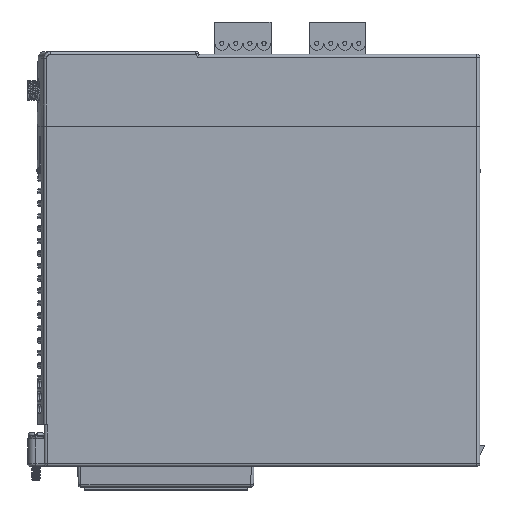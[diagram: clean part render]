
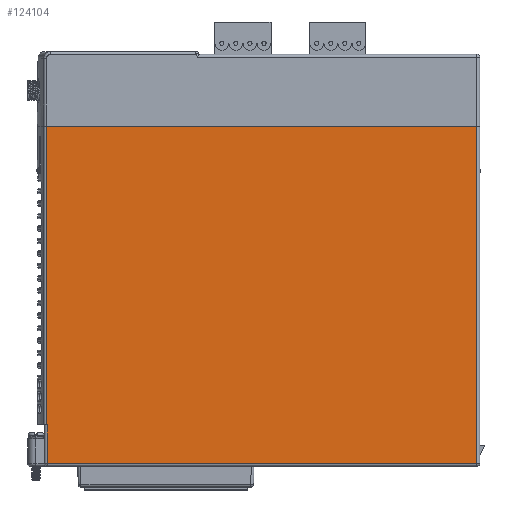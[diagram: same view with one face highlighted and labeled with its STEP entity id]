
A CAD part, left-side view. The second image highlights one B-rep face of the part: STEP entity #124104.
In plain terms, the highlighted planar face has unit normal (-1, 0, 0).
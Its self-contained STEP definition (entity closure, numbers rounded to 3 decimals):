
#103379=DIRECTION('',(0.,1.,0.));
#103380=VECTOR('',#103379,155.718);
#103381=CARTESIAN_POINT('',(-20.,1.,0.));
#103382=LINE('',#103381,#103380);
#109174=DIRECTION('',(0.,0.,1.));
#109175=VECTOR('',#109174,122.);
#109176=CARTESIAN_POINT('',(-20.,1.,-122.));
#109177=LINE('',#109176,#109175);
#109192=DIRECTION('',(0.,1.,0.));
#109193=VECTOR('',#109192,155.5);
#109194=CARTESIAN_POINT('',(-20.,1.,-122.));
#109195=LINE('',#109194,#109193);
#109219=DIRECTION('',(0.,0.,1.));
#109220=VECTOR('',#109219,14.);
#109221=CARTESIAN_POINT('',(-20.,156.5,-122.));
#109222=LINE('',#109221,#109220);
#109429=DIRECTION('',(0.,1.,0.));
#109430=VECTOR('',#109429,0.218);
#109431=CARTESIAN_POINT('',(-20.,156.5,-108.));
#109432=LINE('',#109431,#109430);
#109563=DIRECTION('',(0.,0.,-1.));
#109564=VECTOR('',#109563,108.);
#109565=CARTESIAN_POINT('',(-20.,156.718,0.));
#109566=LINE('',#109565,#109564);
#115268=CARTESIAN_POINT('',(-20.,156.5,-108.));
#115270=VERTEX_POINT('',#115268);
#115283=CARTESIAN_POINT('',(-20.,156.718,0.));
#115284=VERTEX_POINT('',#115283);
#115285=CARTESIAN_POINT('',(-20.,156.718,-108.));
#115286=VERTEX_POINT('',#115285);
#115291=CARTESIAN_POINT('',(-20.,1.,0.));
#115293=VERTEX_POINT('',#115291);
#115309=CARTESIAN_POINT('',(-20.,1.,-122.));
#115310=CARTESIAN_POINT('',(-20.,156.5,-122.));
#115311=VERTEX_POINT('',#115309);
#115312=VERTEX_POINT('',#115310);
#124088=CARTESIAN_POINT('',(-20.,0.,0.));
#124089=DIRECTION('',(-1.,0.,0.));
#124090=DIRECTION('',(0.,1.,0.));
#124091=AXIS2_PLACEMENT_3D('',#124088,#124089,#124090);
#124092=PLANE('',#124091);
#124093=ORIENTED_EDGE('',*,*,#124079,.T.);
#124095=ORIENTED_EDGE('',*,*,#124094,.T.);
#124097=ORIENTED_EDGE('',*,*,#124096,.T.);
#124099=ORIENTED_EDGE('',*,*,#124098,.F.);
#124100=ORIENTED_EDGE('',*,*,#116872,.F.);
#124101=ORIENTED_EDGE('',*,*,#124055,.F.);
#124102=EDGE_LOOP('',(#124093,#124095,#124097,#124099,#124100,#124101));
#124103=FACE_OUTER_BOUND('',#124102,.F.);
#124104=ADVANCED_FACE('',(#124103),#124092,.T.);
#116872=EDGE_CURVE('',#115293,#115284,#103382,.T.);
#124055=EDGE_CURVE('',#115311,#115293,#109177,.T.);
#124079=EDGE_CURVE('',#115311,#115312,#109195,.T.);
#124094=EDGE_CURVE('',#115312,#115270,#109222,.T.);
#124096=EDGE_CURVE('',#115270,#115286,#109432,.T.);
#124098=EDGE_CURVE('',#115284,#115286,#109566,.T.);
